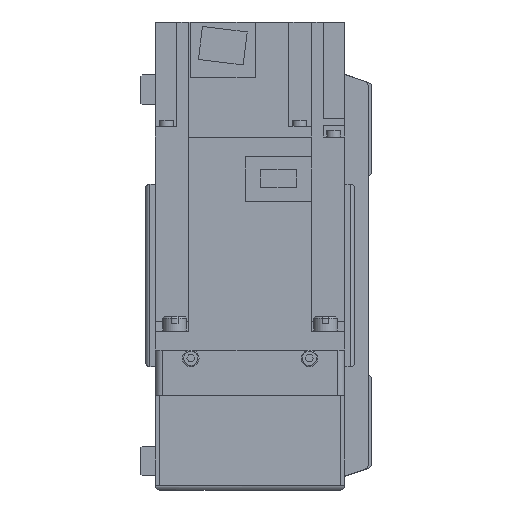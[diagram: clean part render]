
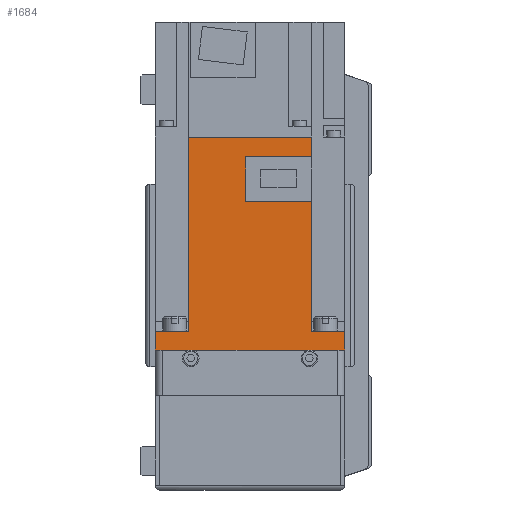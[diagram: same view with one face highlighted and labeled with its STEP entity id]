
A CAD part, left-side view. The second image highlights one B-rep face of the part: STEP entity #1684.
In plain terms, the highlighted planar face has unit normal (-1, 0, 0) as drawn and (1, 0, 0) by its records, which use the part's own axes.
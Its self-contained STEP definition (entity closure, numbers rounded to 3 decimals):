
#1684 = ADVANCED_FACE( '', ( #3982 ), #3983, .F. );
#3982 = FACE_OUTER_BOUND( '', #7042, .T. );
#3983 = PLANE( '', #7043 );
#7042 = EDGE_LOOP( '', ( #11745, #11746, #11747, #11748, #11749, #11750, #11751, #11752, #11753, #11754, #11755, #11756 ) );
#7043 = AXIS2_PLACEMENT_3D( '', #11757, #11758, #11759 );
#11745 = ORIENTED_EDGE( '', *, *, #18351, .F. );
#11746 = ORIENTED_EDGE( '', *, *, #19171, .F. );
#11747 = ORIENTED_EDGE( '', *, *, #19172, .F. );
#11748 = ORIENTED_EDGE( '', *, *, #17888, .T. );
#11749 = ORIENTED_EDGE( '', *, *, #19173, .F. );
#11750 = ORIENTED_EDGE( '', *, *, #19174, .T. );
#11751 = ORIENTED_EDGE( '', *, *, #19141, .T. );
#11752 = ORIENTED_EDGE( '', *, *, #19175, .F. );
#11753 = ORIENTED_EDGE( '', *, *, #18605, .F. );
#11754 = ORIENTED_EDGE( '', *, *, #19176, .F. );
#11755 = ORIENTED_EDGE( '', *, *, #19177, .F. );
#11756 = ORIENTED_EDGE( '', *, *, #19027, .F. );
#11757 = CARTESIAN_POINT( '', ( 40., 89.8, 40. ) );
#11758 = DIRECTION( '', ( -1., 0., 0. ) );
#11759 = DIRECTION( '', ( 0., 0., 1. ) );
#17888 = EDGE_CURVE( '', #21382, #21380, #21383, .T. );
#18351 = EDGE_CURVE( '', #22206, #22208, #22209, .T. );
#18605 = EDGE_CURVE( '', #22641, #22642, #22643, .T. );
#19027 = EDGE_CURVE( '', #22208, #23328, #23329, .T. );
#19141 = EDGE_CURVE( '', #23512, #23510, #23513, .T. );
#19171 = EDGE_CURVE( '', #23555, #22206, #23556, .T. );
#19172 = EDGE_CURVE( '', #21382, #23555, #23557, .T. );
#19173 = EDGE_CURVE( '', #23558, #21380, #23559, .T. );
#19174 = EDGE_CURVE( '', #23558, #23512, #23560, .T. );
#19175 = EDGE_CURVE( '', #22642, #23510, #23561, .T. );
#19176 = EDGE_CURVE( '', #23562, #22641, #23563, .T. );
#19177 = EDGE_CURVE( '', #23328, #23562, #23564, .T. );
#21380 = VERTEX_POINT( '', #26432 );
#21382 = VERTEX_POINT( '', #26435 );
#21383 = LINE( '', #26436, #26437 );
#22206 = VERTEX_POINT( '', #27588 );
#22208 = VERTEX_POINT( '', #27591 );
#22209 = LINE( '', #27592, #27593 );
#22641 = VERTEX_POINT( '', #28237 );
#22642 = VERTEX_POINT( '', #28238 );
#22643 = LINE( '', #28239, #28240 );
#23328 = VERTEX_POINT( '', #29245 );
#23329 = LINE( '', #29246, #29247 );
#23510 = VERTEX_POINT( '', #29496 );
#23512 = VERTEX_POINT( '', #29499 );
#23513 = LINE( '', #29500, #29501 );
#23555 = VERTEX_POINT( '', #29560 );
#23556 = LINE( '', #29561, #29562 );
#23557 = LINE( '', #29563, #29564 );
#23558 = VERTEX_POINT( '', #29565 );
#23559 = LINE( '', #29566, #29567 );
#23560 = LINE( '', #29568, #29569 );
#23561 = LINE( '', #29570, #29571 );
#23562 = VERTEX_POINT( '', #29572 );
#23563 = LINE( '', #29573, #29574 );
#23564 = LINE( '', #29575, #29576 );
#26432 = CARTESIAN_POINT( '', ( 40., 8., 25.95 ) );
#26435 = CARTESIAN_POINT( '', ( 40., 89.8, 25.95 ) );
#26436 = CARTESIAN_POINT( '', ( 40., 158., 25.95 ) );
#26437 = VECTOR( '', #33130, 1000. );
#27588 = CARTESIAN_POINT( '', ( 40., 81.4, -25.95 ) );
#27591 = CARTESIAN_POINT( '', ( 40., 81.4, 1.8 ) );
#27592 = CARTESIAN_POINT( '', ( 40., 81.4, -26. ) );
#27593 = VECTOR( '', #33737, 1000. );
#28237 = CARTESIAN_POINT( '', ( 40., 8., -25.95 ) );
#28238 = CARTESIAN_POINT( '', ( 40., 8., -40. ) );
#28239 = CARTESIAN_POINT( '', ( 40., 8., 40. ) );
#28240 = VECTOR( '', #34049, 1000. );
#29245 = CARTESIAN_POINT( '', ( 40., 62.8, 1.8 ) );
#29246 = CARTESIAN_POINT( '', ( 40., 81.4, 1.8 ) );
#29247 = VECTOR( '', #34556, 1000. );
#29496 = CARTESIAN_POINT( '', ( 40., 0., -40. ) );
#29499 = CARTESIAN_POINT( '', ( 40., 0., 40. ) );
#29500 = CARTESIAN_POINT( '', ( 40., 0., 40. ) );
#29501 = VECTOR( '', #34713, 1000. );
#29560 = CARTESIAN_POINT( '', ( 40., 89.8, -25.95 ) );
#29561 = CARTESIAN_POINT( '', ( 40., 158., -25.95 ) );
#29562 = VECTOR( '', #34743, 1000. );
#29563 = CARTESIAN_POINT( '', ( 40., 89.8, 40. ) );
#29564 = VECTOR( '', #34744, 1000. );
#29565 = CARTESIAN_POINT( '', ( 40., 8., 40. ) );
#29566 = CARTESIAN_POINT( '', ( 40., 8., 40. ) );
#29567 = VECTOR( '', #34745, 1000. );
#29568 = CARTESIAN_POINT( '', ( 40., 89.8, 40. ) );
#29569 = VECTOR( '', #34746, 1000. );
#29570 = CARTESIAN_POINT( '', ( 40., 89.8, -40. ) );
#29571 = VECTOR( '', #34747, 1000. );
#29572 = CARTESIAN_POINT( '', ( 40., 62.8, -25.95 ) );
#29573 = CARTESIAN_POINT( '', ( 40., 158., -25.95 ) );
#29574 = VECTOR( '', #34748, 1000. );
#29575 = CARTESIAN_POINT( '', ( 40., 62.8, 1.8 ) );
#29576 = VECTOR( '', #34749, 1000. );
#33130 = DIRECTION( '', ( 0., -1., 0. ) );
#33737 = DIRECTION( '', ( 0., 0., 1. ) );
#34049 = DIRECTION( '', ( 0., 0., -1. ) );
#34556 = DIRECTION( '', ( 0., -1., 0. ) );
#34713 = DIRECTION( '', ( 0., 0., -1. ) );
#34743 = DIRECTION( '', ( 0., -1., 0. ) );
#34744 = DIRECTION( '', ( 0., 0., -1. ) );
#34745 = DIRECTION( '', ( 0., 0., -1. ) );
#34746 = DIRECTION( '', ( 0., -1., 0. ) );
#34747 = DIRECTION( '', ( 0., -1., 0. ) );
#34748 = DIRECTION( '', ( 0., -1., 0. ) );
#34749 = DIRECTION( '', ( 0., 0., -1. ) );
